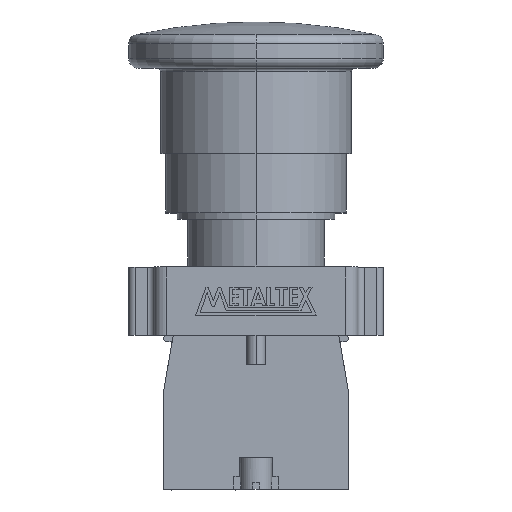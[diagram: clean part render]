
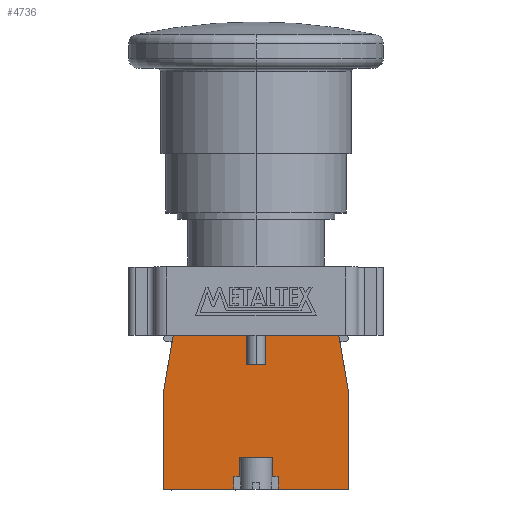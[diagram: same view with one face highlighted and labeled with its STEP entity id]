
A CAD part, top view. The second image highlights one B-rep face of the part: STEP entity #4736.
In plain terms, the highlighted planar face has unit normal (0, 0, 1).
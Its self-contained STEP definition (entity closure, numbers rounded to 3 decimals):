
#57 = PLANE ( 'NONE',  #5963 ) ;
#58 = CARTESIAN_POINT ( 'NONE',  ( 0., 0., 7.45 ) ) ;
#59 = DIRECTION ( 'NONE',  ( 0., 0., 1. ) ) ;
#60 = DIRECTION ( 'NONE',  ( 1., 0., 0. ) ) ;
#665 = CARTESIAN_POINT ( 'NONE',  ( 3.5, 2., 7.45 ) ) ;
#666 = CARTESIAN_POINT ( 'NONE',  ( 2.6, 2., 7.45 ) ) ;
#667 = CARTESIAN_POINT ( 'NONE',  ( -2.6, 2., 7.45 ) ) ;
#668 = CARTESIAN_POINT ( 'NONE',  ( -3.5, 2., 7.45 ) ) ;
#698 = CARTESIAN_POINT ( 'NONE',  ( -3.5, 0., 7.45 ) ) ;
#701 = CARTESIAN_POINT ( 'NONE',  ( 14.5, 0., 7.45 ) ) ;
#702 = CARTESIAN_POINT ( 'NONE',  ( 3.5, 0., 7.45 ) ) ;
#760 = CARTESIAN_POINT ( 'NONE',  ( -14.5, 15.5, 7.45 ) ) ;
#761 = CARTESIAN_POINT ( 'NONE',  ( -14.5, 0., 7.45 ) ) ;
#768 = CARTESIAN_POINT ( 'NONE',  ( -1.5, 19.6, 7.45 ) ) ;
#770 = CARTESIAN_POINT ( 'NONE',  ( 1.5, 19.6, 7.45 ) ) ;
#773 = CARTESIAN_POINT ( 'NONE',  ( -2.6, 5., 7.45 ) ) ;
#774 = CARTESIAN_POINT ( 'NONE',  ( 2.6, 5., 7.45 ) ) ;
#795 = CARTESIAN_POINT ( 'NONE',  ( 1.5, 24.2, 7.45 ) ) ;
#797 = CARTESIAN_POINT ( 'NONE',  ( -1.5, 24.2, 7.45 ) ) ;
#798 = CARTESIAN_POINT ( 'NONE',  ( -13., 24.2, 7.45 ) ) ;
#801 = CARTESIAN_POINT ( 'NONE',  ( 14.5, 15.5, 7.45 ) ) ;
#802 = CARTESIAN_POINT ( 'NONE',  ( 13., 24.2, 7.45 ) ) ;
#1563 = LINE ( 'NONE', #1564, #3493 ) ;
#1564 = CARTESIAN_POINT ( 'NONE',  ( -14.5, 0., 7.45 ) ) ;
#1565 = DIRECTION ( 'NONE',  ( 1., 0., 0. ) ) ;
#1572 = LINE ( 'NONE', #1573, #3490 ) ;
#1573 = CARTESIAN_POINT ( 'NONE',  ( -14.5, 0., 7.45 ) ) ;
#1574 = DIRECTION ( 'NONE',  ( 1., 0., 0. ) ) ;
#1686 = LINE ( 'NONE', #1687, #3451 ) ;
#1687 = CARTESIAN_POINT ( 'NONE',  ( 14.5, 0., 7.45 ) ) ;
#1688 = DIRECTION ( 'NONE',  ( 0., 1., 0. ) ) ;
#1698 = LINE ( 'NONE', #1699, #3447 ) ;
#1699 = CARTESIAN_POINT ( 'NONE',  ( -13., 24.2, 7.45 ) ) ;
#1700 = DIRECTION ( 'NONE',  ( -0.17, -0.985, 0. ) ) ;
#1701 = LINE ( 'NONE', #1702, #3446 ) ;
#1702 = CARTESIAN_POINT ( 'NONE',  ( -1.5, 19.6, 7.45 ) ) ;
#1703 = DIRECTION ( 'NONE',  ( 0., 1., 0. ) ) ;
#1704 = LINE ( 'NONE', #1705, #3445 ) ;
#1705 = CARTESIAN_POINT ( 'NONE',  ( -3.5, 0., 7.45 ) ) ;
#1706 = DIRECTION ( 'NONE',  ( 0., 1., 0. ) ) ;
#1707 = LINE ( 'NONE', #1708, #3444 ) ;
#1708 = CARTESIAN_POINT ( 'NONE',  ( 0., 2., 7.45 ) ) ;
#1709 = DIRECTION ( 'NONE',  ( 1., 0., 0. ) ) ;
#1710 = LINE ( 'NONE', #1711, #3443 ) ;
#1711 = CARTESIAN_POINT ( 'NONE',  ( -2.6, 0., 7.45 ) ) ;
#1712 = DIRECTION ( 'NONE',  ( 0., 1., 0. ) ) ;
#1713 = LINE ( 'NONE', #1714, #3441 ) ;
#1714 = CARTESIAN_POINT ( 'NONE',  ( 2.6, 0., 7.45 ) ) ;
#1715 = DIRECTION ( 'NONE',  ( 0., 1., 0. ) ) ;
#1716 = LINE ( 'NONE', #1717, #3440 ) ;
#1717 = CARTESIAN_POINT ( 'NONE',  ( 0., 2., 7.45 ) ) ;
#1718 = DIRECTION ( 'NONE',  ( 1., 0., 0. ) ) ;
#1719 = LINE ( 'NONE', #1720, #3439 ) ;
#1720 = CARTESIAN_POINT ( 'NONE',  ( 3.5, 0., 7.45 ) ) ;
#1721 = DIRECTION ( 'NONE',  ( 0., 1., 0. ) ) ;
#1722 = LINE ( 'NONE', #1723, #3438 ) ;
#1723 = CARTESIAN_POINT ( 'NONE',  ( 1.5, 19.6, 7.45 ) ) ;
#1724 = DIRECTION ( 'NONE',  ( 0., 1., 0. ) ) ;
#3438 = VECTOR ( 'NONE', #1724, 1000. ) ;
#3439 = VECTOR ( 'NONE', #1721, 1000. ) ;
#3440 = VECTOR ( 'NONE', #1718, 1000. ) ;
#3441 = VECTOR ( 'NONE', #1715, 1000. ) ;
#3443 = VECTOR ( 'NONE', #1712, 1000. ) ;
#3444 = VECTOR ( 'NONE', #1709, 1000. ) ;
#3445 = VECTOR ( 'NONE', #1706, 1000. ) ;
#3446 = VECTOR ( 'NONE', #1703, 1000. ) ;
#3447 = VECTOR ( 'NONE', #1700, 1000. ) ;
#3451 = VECTOR ( 'NONE', #1688, 1000. ) ;
#3490 = VECTOR ( 'NONE', #1574, 1000. ) ;
#3493 = VECTOR ( 'NONE', #1565, 1000. ) ;
#4415 = EDGE_CURVE ( 'NONE', #5561, #5562, #10894, .T. ) ;
#4422 = EDGE_CURVE ( 'NONE', #5557, #5558, #10915, .T. ) ;
#4427 = EDGE_CURVE ( 'NONE', #5562, #5555, #10927, .T. ) ;
#4461 = EDGE_CURVE ( 'NONE', #5534, #5533, #11029, .T. ) ;
#4467 = EDGE_CURVE ( 'NONE', #5530, #5528, #11047, .T. ) ;
#4474 = EDGE_CURVE ( 'NONE', #5520, #5521, #11068, .T. ) ;
#4736 = ADVANCED_FACE ( 'NONE', ( #5966 ), #57, .T. ) ;
#5137 = EDGE_LOOP ( 'NONE', ( #9918, #9916, #9919, #9917, #9915, #9914, #9912, #9913, #9911, #9910, #9908, #9909, #9907, #9905, #9906, #9904, #9903, #9901 ) ) ;
#5425 = VERTEX_POINT ( 'NONE', #665 ) ;
#5426 = VERTEX_POINT ( 'NONE', #666 ) ;
#5427 = VERTEX_POINT ( 'NONE', #667 ) ;
#5428 = VERTEX_POINT ( 'NONE', #668 ) ;
#5458 = VERTEX_POINT ( 'NONE', #698 ) ;
#5461 = VERTEX_POINT ( 'NONE', #701 ) ;
#5462 = VERTEX_POINT ( 'NONE', #702 ) ;
#5520 = VERTEX_POINT ( 'NONE', #760 ) ;
#5521 = VERTEX_POINT ( 'NONE', #761 ) ;
#5528 = VERTEX_POINT ( 'NONE', #768 ) ;
#5530 = VERTEX_POINT ( 'NONE', #770 ) ;
#5533 = VERTEX_POINT ( 'NONE', #773 ) ;
#5534 = VERTEX_POINT ( 'NONE', #774 ) ;
#5555 = VERTEX_POINT ( 'NONE', #795 ) ;
#5557 = VERTEX_POINT ( 'NONE', #797 ) ;
#5558 = VERTEX_POINT ( 'NONE', #798 ) ;
#5561 = VERTEX_POINT ( 'NONE', #801 ) ;
#5562 = VERTEX_POINT ( 'NONE', #802 ) ;
#5963 = AXIS2_PLACEMENT_3D ( 'NONE', #58, #59, #60 ) ;
#5966 = FACE_OUTER_BOUND ( 'NONE', #5137, .T. ) ;
#6477 = VECTOR ( 'NONE', #11070, 1000. ) ;
#6485 = VECTOR ( 'NONE', #11049, 1000. ) ;
#6492 = VECTOR ( 'NONE', #11031, 1000. ) ;
#6526 = VECTOR ( 'NONE', #10929, 1000. ) ;
#6531 = VECTOR ( 'NONE', #10917, 1000. ) ;
#6540 = VECTOR ( 'NONE', #10896, 1000. ) ;
#7674 = EDGE_CURVE ( 'NONE', #5462, #5461, #1563, .T. ) ;
#7677 = EDGE_CURVE ( 'NONE', #5521, #5458, #1572, .T. ) ;
#7715 = EDGE_CURVE ( 'NONE', #5461, #5561, #1686, .T. ) ;
#7719 = EDGE_CURVE ( 'NONE', #5558, #5520, #1698, .T. ) ;
#7720 = EDGE_CURVE ( 'NONE', #5528, #5557, #1701, .T. ) ;
#7721 = EDGE_CURVE ( 'NONE', #5458, #5428, #1704, .T. ) ;
#7722 = EDGE_CURVE ( 'NONE', #5428, #5427, #1707, .T. ) ;
#7723 = EDGE_CURVE ( 'NONE', #5427, #5533, #1710, .T. ) ;
#7724 = EDGE_CURVE ( 'NONE', #5426, #5534, #1713, .T. ) ;
#7725 = EDGE_CURVE ( 'NONE', #5426, #5425, #1716, .T. ) ;
#7726 = EDGE_CURVE ( 'NONE', #5462, #5425, #1719, .T. ) ;
#7727 = EDGE_CURVE ( 'NONE', #5530, #5555, #1722, .T. ) ;
#9901 = ORIENTED_EDGE ( 'NONE', *, *, #4467, .T. ) ;
#9903 = ORIENTED_EDGE ( 'NONE', *, *, #7727, .F. ) ;
#9904 = ORIENTED_EDGE ( 'NONE', *, *, #4427, .T. ) ;
#9905 = ORIENTED_EDGE ( 'NONE', *, *, #7715, .T. ) ;
#9906 = ORIENTED_EDGE ( 'NONE', *, *, #4415, .T. ) ;
#9907 = ORIENTED_EDGE ( 'NONE', *, *, #7674, .T. ) ;
#9908 = ORIENTED_EDGE ( 'NONE', *, *, #7725, .T. ) ;
#9909 = ORIENTED_EDGE ( 'NONE', *, *, #7726, .F. ) ;
#9910 = ORIENTED_EDGE ( 'NONE', *, *, #7724, .F. ) ;
#9911 = ORIENTED_EDGE ( 'NONE', *, *, #4461, .F. ) ;
#9912 = ORIENTED_EDGE ( 'NONE', *, *, #7722, .T. ) ;
#9913 = ORIENTED_EDGE ( 'NONE', *, *, #7723, .T. ) ;
#9914 = ORIENTED_EDGE ( 'NONE', *, *, #7721, .T. ) ;
#9915 = ORIENTED_EDGE ( 'NONE', *, *, #7677, .T. ) ;
#9916 = ORIENTED_EDGE ( 'NONE', *, *, #4422, .T. ) ;
#9917 = ORIENTED_EDGE ( 'NONE', *, *, #4474, .T. ) ;
#9918 = ORIENTED_EDGE ( 'NONE', *, *, #7720, .T. ) ;
#9919 = ORIENTED_EDGE ( 'NONE', *, *, #7719, .T. ) ;
#10894 = LINE ( 'NONE', #10895, #6540 ) ;
#10895 = CARTESIAN_POINT ( 'NONE',  ( 14.5, 15.5, 7.45 ) ) ;
#10896 = DIRECTION ( 'NONE',  ( -0.17, 0.985, 0. ) ) ;
#10915 = LINE ( 'NONE', #10916, #6531 ) ;
#10916 = CARTESIAN_POINT ( 'NONE',  ( 13., 24.2, 7.45 ) ) ;
#10917 = DIRECTION ( 'NONE',  ( -1., 0., 0. ) ) ;
#10927 = LINE ( 'NONE', #10928, #6526 ) ;
#10928 = CARTESIAN_POINT ( 'NONE',  ( 13., 24.2, 7.45 ) ) ;
#10929 = DIRECTION ( 'NONE',  ( -1., 0., 0. ) ) ;
#11029 = LINE ( 'NONE', #11030, #6492 ) ;
#11030 = CARTESIAN_POINT ( 'NONE',  ( 0., 5., 7.45 ) ) ;
#11031 = DIRECTION ( 'NONE',  ( -1., 0., 0. ) ) ;
#11047 = LINE ( 'NONE', #11048, #6485 ) ;
#11048 = CARTESIAN_POINT ( 'NONE',  ( 0., 19.6, 7.45 ) ) ;
#11049 = DIRECTION ( 'NONE',  ( -1., 0., 0. ) ) ;
#11068 = LINE ( 'NONE', #11069, #6477 ) ;
#11069 = CARTESIAN_POINT ( 'NONE',  ( -14.5, 15.5, 7.45 ) ) ;
#11070 = DIRECTION ( 'NONE',  ( 0., -1., 0. ) ) ;
